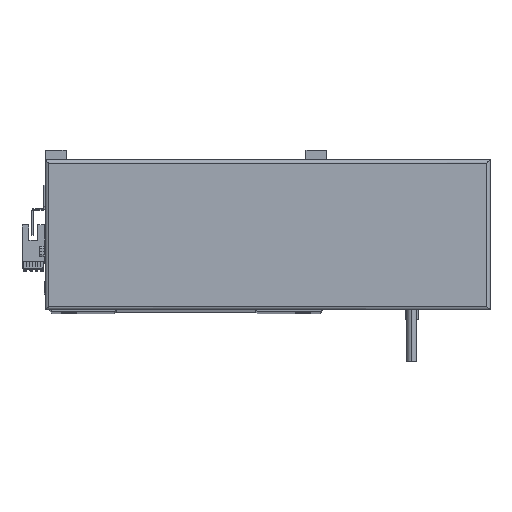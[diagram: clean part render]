
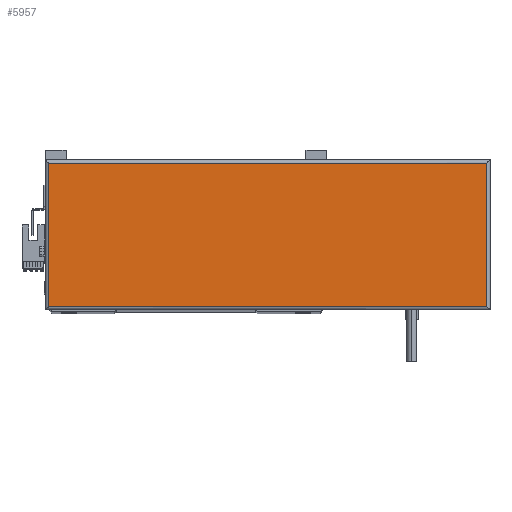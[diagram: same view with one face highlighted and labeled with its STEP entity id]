
A CAD part, top view. The second image highlights one B-rep face of the part: STEP entity #5957.
In plain terms, the highlighted planar face has unit normal (0, 0, 1).
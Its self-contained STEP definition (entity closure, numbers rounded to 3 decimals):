
#312 = CARTESIAN_POINT ( 'NONE',  ( 265., 90., 44.8 ) ) ;
#857 = CARTESIAN_POINT ( 'NONE',  ( 265., 88., 44.8 ) ) ;
#1005 = CARTESIAN_POINT ( 'NONE',  ( 2., 0., 44.8 ) ) ;
#2963 = LINE ( 'NONE', #312, #30372 ) ;
#3898 = ORIENTED_EDGE ( 'NONE', *, *, #41047, .T. ) ;
#4068 = DIRECTION ( 'NONE',  ( 1., 0., 0. ) ) ;
#5957 = ADVANCED_FACE ( 'NONE', ( #22634 ), #24993, .T. ) ;
#7158 = VERTEX_POINT ( 'NONE', #857 ) ;
#7666 = DIRECTION ( 'NONE',  ( 0., 1., 0. ) ) ;
#10119 = CARTESIAN_POINT ( 'NONE',  ( 265., 2., 44.8 ) ) ;
#12387 = VECTOR ( 'NONE', #21188, 1000. ) ;
#14032 = EDGE_CURVE ( 'NONE', #46274, #7158, #2963, .T. ) ;
#14569 = VECTOR ( 'NONE', #38832, 1000. ) ;
#14750 = ORIENTED_EDGE ( 'NONE', *, *, #29046, .T. ) ;
#15119 = VECTOR ( 'NONE', #4068, 1000. ) ;
#16802 = CARTESIAN_POINT ( 'NONE',  ( 0., 88., 44.8 ) ) ;
#20950 = DIRECTION ( 'NONE',  ( 1., 0., 0. ) ) ;
#21188 = DIRECTION ( 'NONE',  ( -1., 0., 0. ) ) ;
#21363 = AXIS2_PLACEMENT_3D ( 'NONE', #32470, #31833, #20950 ) ;
#22305 = LINE ( 'NONE', #16802, #12387 ) ;
#22634 = FACE_OUTER_BOUND ( 'NONE', #31015, .T. ) ;
#22696 = CARTESIAN_POINT ( 'NONE',  ( 2., 2., 44.8 ) ) ;
#23259 = LINE ( 'NONE', #47517, #15119 ) ;
#23603 = CARTESIAN_POINT ( 'NONE',  ( 2., 88., 44.8 ) ) ;
#23915 = EDGE_CURVE ( 'NONE', #44733, #46274, #23259, .T. ) ;
#24993 = PLANE ( 'NONE',  #21363 ) ;
#28795 = VERTEX_POINT ( 'NONE', #23603 ) ;
#29046 = EDGE_CURVE ( 'NONE', #28795, #44733, #37242, .T. ) ;
#30372 = VECTOR ( 'NONE', #7666, 1000. ) ;
#31015 = EDGE_LOOP ( 'NONE', ( #34891, #3898, #14750, #45754 ) ) ;
#31833 = DIRECTION ( 'NONE',  ( 0., 0., 1. ) ) ;
#32470 = CARTESIAN_POINT ( 'NONE',  ( 133.5, 45., 44.8 ) ) ;
#34891 = ORIENTED_EDGE ( 'NONE', *, *, #14032, .T. ) ;
#37242 = LINE ( 'NONE', #1005, #14569 ) ;
#38832 = DIRECTION ( 'NONE',  ( 0., -1., 0. ) ) ;
#41047 = EDGE_CURVE ( 'NONE', #7158, #28795, #22305, .T. ) ;
#44733 = VERTEX_POINT ( 'NONE', #22696 ) ;
#45754 = ORIENTED_EDGE ( 'NONE', *, *, #23915, .T. ) ;
#46274 = VERTEX_POINT ( 'NONE', #10119 ) ;
#47517 = CARTESIAN_POINT ( 'NONE',  ( 267., 2., 44.8 ) ) ;
